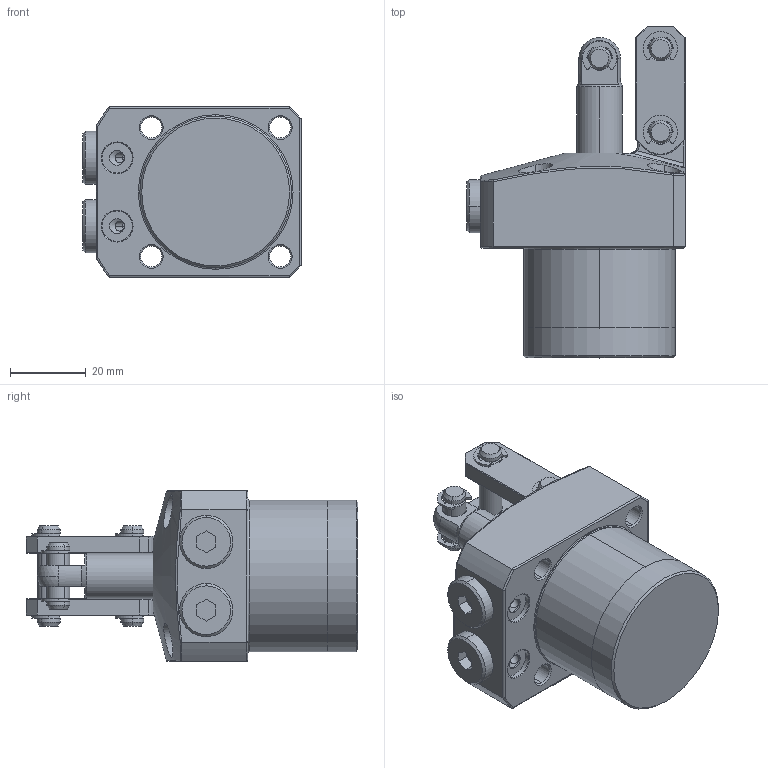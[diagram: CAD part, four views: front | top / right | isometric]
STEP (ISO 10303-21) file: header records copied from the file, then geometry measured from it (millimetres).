
FILE_DESCRIPTION(/* description */ (''),/* implementation_level */ '2;1');
FILE_NAME(/* name */ 'KTPC40-F.stp',/* time_stamp */ '2022-11-18T14:24:53+08:00',/* author */ (''),/* organization */ (''),/* preprocessor_version */ 'ST-DEVELOPER v16.7',/* originating_system */ 'SIEMENS PLM Software NX 12.0',/* authorisation */ '');
FILE_SCHEMA (('AP203_CONFIGURATION_CONTROLLED_3D_DESIGN_OF_MECHANICAL_PARTS_AND_ASSEMBLIES_MIM_LF { 1 0 10303 403 2 1 2}'));
Length unit declared in the file: millimetre
Products named in the file (9): KTPC40-F-06; KTPC40-F-01; KTPC40-F-03; KTPC40-F-05; KTPC40-F-02; KTPC40-F-08; KTPC40-F-04; KTPC40-F-07; LKA0400-CC_step
Assembly tree (16 placements, depth 2):
  LKA0400-CC_step
    KTPC40-F-07  x2
    KTPC40-F-04
    KTPC40-F-08  x6
    KTPC40-F-02  x2
    KTPC40-F-05  x2
    KTPC40-F-03
    KTPC40-F-01
    KTPC40-F-06
Bounding box: 57.5 x 87.5 x 45 mm (x, y, z)
Volume: 123219.9 mm3; surface area: 27755.5 mm2
Topology: 16 solids, 16 shells, 560 faces, 1346 edges, 840 vertices
Faces by surface type: cylinder 236, plane 175, cone 70, torus 60, bspline 17, sphere 2
Full cylindrical faces by diameter (mm): 40 x1
Entity records: 11427 total; most frequent: CARTESIAN_POINT 2821, DIRECTION 1612, ORIENTED_EDGE 1484, EDGE_CURVE 742, AXIS2_PLACEMENT_3D 659, VERTEX_POINT 454, EDGE_LOOP 362, CIRCLE 336
